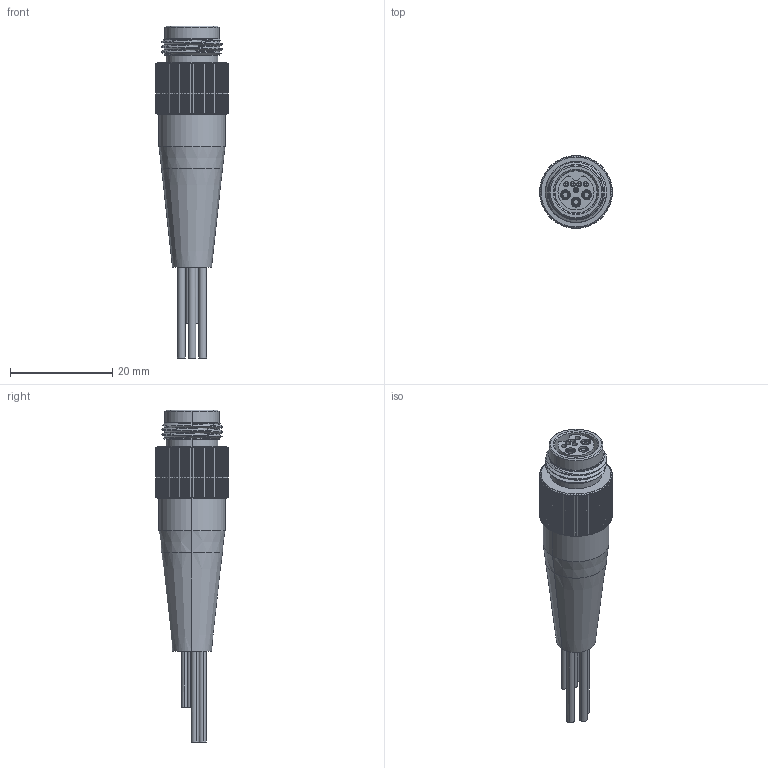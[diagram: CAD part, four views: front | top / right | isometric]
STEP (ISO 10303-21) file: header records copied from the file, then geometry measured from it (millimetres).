
FILE_DESCRIPTION (( 'STEP AP214' ), '1' );
FILE_NAME ('A90121-001 REV A.STEP', '2018-01-24T21:09:01', ( '' ), ( '' ), 'SwSTEP 2.0', 'SolidWorks 2017', '' );
FILE_SCHEMA (( 'AUTOMOTIVE_DESIGN' ));
Length unit declared in the file: inch
Products named in the file (1): A90121-001 REV_A
Bounding box: 14.2 x 14.2 x 65.06 mm (x, y, z)
Volume: 4301.4 mm3; surface area: 4715.4 mm2
Topology: 1 solids, 5 shells, 467 faces, 1222 edges, 799 vertices
Faces by surface type: plane 209, cylinder 196, cone 49, torus 8, bspline 3, sphere 2
Entity records: 16246 total; most frequent: CARTESIAN_POINT 5179, ORIENTED_EDGE 2436, DIRECTION 2140, EDGE_CURVE 1218, AXIS2_PLACEMENT_3D 868, VERTEX_POINT 797, EDGE_LOOP 509, FACE_OUTER_BOUND 465
